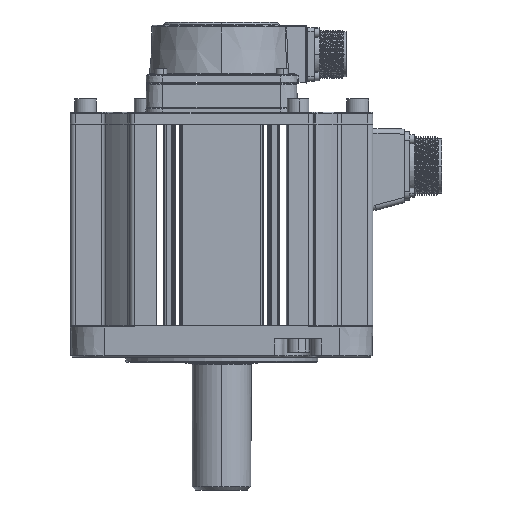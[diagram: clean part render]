
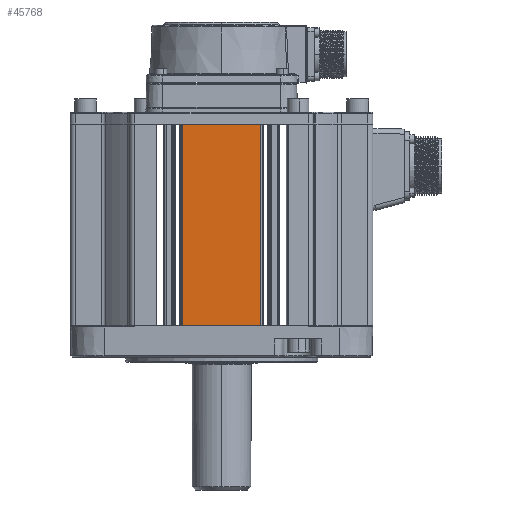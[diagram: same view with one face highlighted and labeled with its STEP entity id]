
A CAD part, left-side view. The second image highlights one B-rep face of the part: STEP entity #45768.
In plain terms, the highlighted planar face has unit normal (-1, 0, 0).
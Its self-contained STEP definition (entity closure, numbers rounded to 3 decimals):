
#1177 = DIRECTION ( 'NONE',  ( 0., -1., 0. ) ) ;
#2882 = PLANE ( 'NONE',  #34863 ) ;
#3200 = DIRECTION ( 'NONE',  ( 0., 0., 1. ) ) ;
#3862 = ORIENTED_EDGE ( 'NONE', *, *, #19330, .T. ) ;
#3918 = ORIENTED_EDGE ( 'NONE', *, *, #19102, .T. ) ;
#5650 = VERTEX_POINT ( 'NONE', #11848 ) ;
#8641 = VERTEX_POINT ( 'NONE', #24828 ) ;
#9110 = VERTEX_POINT ( 'NONE', #25428 ) ;
#10039 = EDGE_CURVE ( 'NONE', #8641, #9110, #39017, .T. ) ;
#11848 = CARTESIAN_POINT ( 'NONE',  ( -90., -23.051, -119.8 ) ) ;
#12342 = DIRECTION ( 'NONE',  ( 0., 0., -1. ) ) ;
#15569 = VERTEX_POINT ( 'NONE', #21891 ) ;
#18997 = LINE ( 'NONE', #57436, #27863 ) ;
#19102 = EDGE_CURVE ( 'NONE', #8641, #15569, #41080, .T. ) ;
#19105 = VECTOR ( 'NONE', #41002, 1000. ) ;
#19330 = EDGE_CURVE ( 'NONE', #5650, #9110, #36961, .T. ) ;
#21891 = CARTESIAN_POINT ( 'NONE',  ( -90., 23.051, -119.8 ) ) ;
#24828 = CARTESIAN_POINT ( 'NONE',  ( -90., 23.051, 0. ) ) ;
#24983 = CARTESIAN_POINT ( 'NONE',  ( -90., -24., 0. ) ) ;
#25428 = CARTESIAN_POINT ( 'NONE',  ( -90., -23.051, 0. ) ) ;
#27301 = FACE_OUTER_BOUND ( 'NONE', #56003, .T. ) ;
#27863 = VECTOR ( 'NONE', #50963, 1000. ) ;
#31541 = VECTOR ( 'NONE', #1177, 1000. ) ;
#34863 = AXIS2_PLACEMENT_3D ( 'NONE', #36660, #41962, #3200 ) ;
#36100 = CARTESIAN_POINT ( 'NONE',  ( -90., 23.051, -119.8 ) ) ;
#36660 = CARTESIAN_POINT ( 'NONE',  ( -90., -24., -119.8 ) ) ;
#36961 = LINE ( 'NONE', #60396, #19105 ) ;
#39017 = LINE ( 'NONE', #24983, #31541 ) ;
#41002 = DIRECTION ( 'NONE',  ( 0., 0., 1. ) ) ;
#41080 = LINE ( 'NONE', #36100, #50992 ) ;
#41962 = DIRECTION ( 'NONE',  ( -1., 0., 0. ) ) ;
#45768 = ADVANCED_FACE ( 'NONE', ( #27301 ), #2882, .T. ) ;
#50275 = ORIENTED_EDGE ( 'NONE', *, *, #54794, .T. ) ;
#50963 = DIRECTION ( 'NONE',  ( 0., -1., 0. ) ) ;
#50992 = VECTOR ( 'NONE', #12342, 1000. ) ;
#51505 = ORIENTED_EDGE ( 'NONE', *, *, #10039, .F. ) ;
#54794 = EDGE_CURVE ( 'NONE', #15569, #5650, #18997, .T. ) ;
#56003 = EDGE_LOOP ( 'NONE', ( #50275, #3862, #51505, #3918 ) ) ;
#57436 = CARTESIAN_POINT ( 'NONE',  ( -90., -24., -119.8 ) ) ;
#60396 = CARTESIAN_POINT ( 'NONE',  ( -90., -23.051, -119.8 ) ) ;
